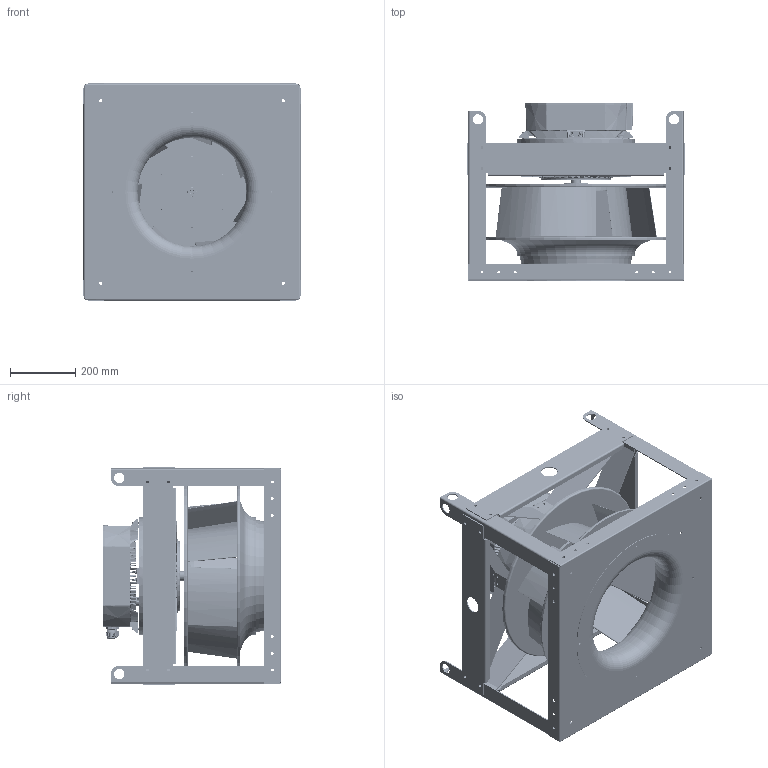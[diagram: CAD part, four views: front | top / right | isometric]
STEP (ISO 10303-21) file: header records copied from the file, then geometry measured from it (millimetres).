
FILE_DESCRIPTION (( 'STEP AP214' ), '1' );
FILE_NAME ('655783.STEP', '2026-06-10T14:21:08', ( '' ), ( '' ), 'SwSTEP 2.0', 'SolidWorks 2023', '' );
FILE_SCHEMA (( 'AUTOMOTIVE_DESIGN' ));
Length unit declared in the file: inch
Products named in the file (8): 925250CS_925250CS; 768049CS_768049CS; 651608_651608; 651547_651547; 651607_651607; 655783; 768037CS_768037CS; SXPI STRAP_651579
Assembly tree (16 placements, depth 2):
  655783
    651547_651547
    651607_651607  x4
    651608_651608  x4
    SXPI STRAP_651579  x4
    925250CS_925250CS
    768037CS_768037CS
    768049CS_768049CS
Bounding box: 663.7 x 545.2 x 663.7 mm (x, y, z)
Volume: 6607150.4 mm3; surface area: 5637212.7 mm2
Topology: 26 solids, 153 shells, 3818 faces, 12117 edges, 8192 vertices
Faces by surface type: cylinder 1129, bspline 1029, plane 998, torus 352, cone 298, sphere 12
Full cylindrical faces by diameter (mm): 2.9 x2, 3.962 x4, 5.105 x16, 5.5 x6, 7.137 x16, 7.544 x1, 7.937 x2, 7.938 x2, 8.5 x1, 8.738 x84, 8.8 x12, 10.1 x1, 10.2 x1, 11.8 x8, 12.5 x1, 12.6 x1, 13 x7, 14 x1, 17.462 x4, 21.847 x1, 23.5 x1, 25.5 x4, 26.2 x1, 26.35 x1, 26.5 x1, 26.67 x1, 28.575 x1, 29.591 x1, 29.75 x1, 31.75 x8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
Entity records: 252707 total; most frequent: CARTESIAN_POINT 165471, ORIENTED_EDGE 17985, DIRECTION 15578, EDGE_CURVE 11063, VERTEX_POINT 7700, AXIS2_PLACEMENT_3D 6161, EDGE_LOOP 4258, FACE_OUTER_BOUND 3690
